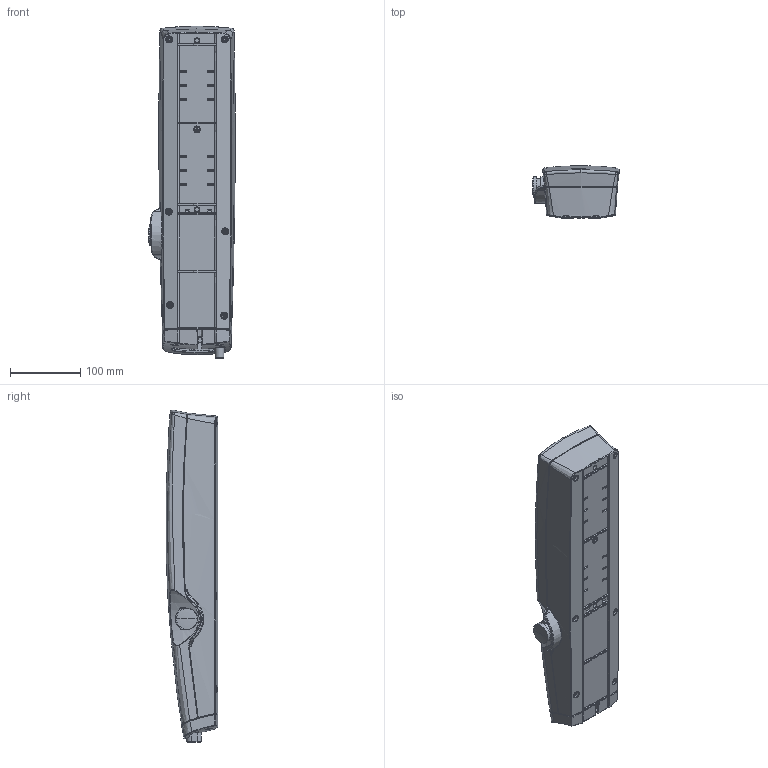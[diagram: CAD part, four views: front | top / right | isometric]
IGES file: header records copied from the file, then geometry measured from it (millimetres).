
Start section:  PTC IGES file: cbjh_internal_charger.igs
Global section: file name: cbjh_internal_charger.igs; native system: Pro/ENGINEER by Parametric Technology Corporation; preprocessor: 2007310; author: ABL; organization: Unknown; date: 20090224.083151; units: millimetre
Bounding box: 122.98 x 73.96 x 472.31 mm (x, y, z)
Volume: 2878549 mm3; surface area: 195935.8 mm2
Topology: 1 solids, 1 shells, 1738 faces, 4547 edges, 2806 vertices
Faces by surface type: revolution 920, bspline 804, extrusion 14
